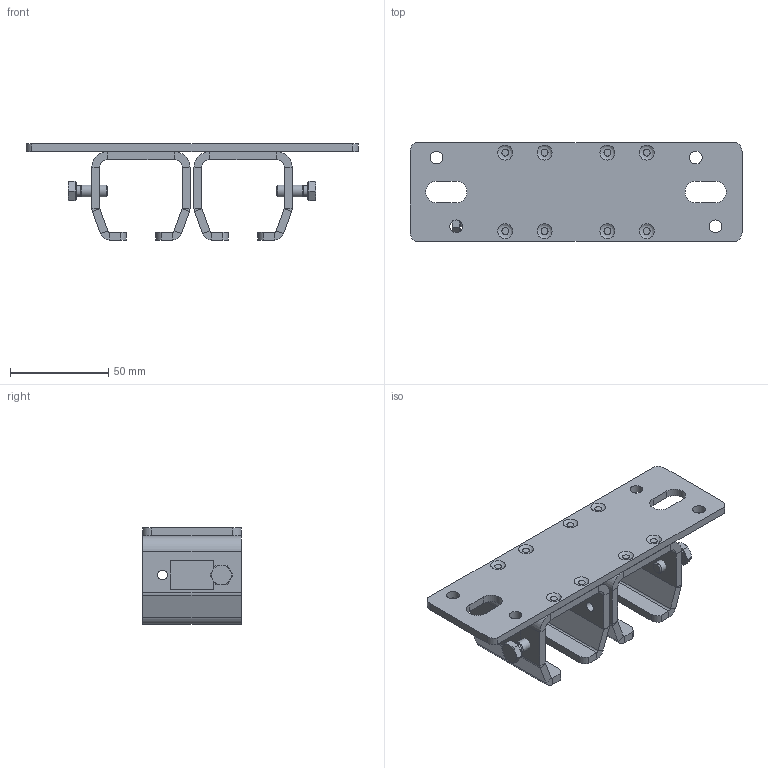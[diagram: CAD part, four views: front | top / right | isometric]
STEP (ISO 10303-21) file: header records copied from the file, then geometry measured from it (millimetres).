
FILE_DESCRIPTION(/* description */ ('Platte mit Löchern'),/* implementation_level */ '2;1');
FILE_NAME(/* name */ 'Q:\sge-ma\Produktmanagement-STB\STB\Workspace\stp\010333040.stp',/* time_stamp */ '2015-07-09T13:59:57+02:00',/* author */ ('avschreier'),/* organization */ (''),/* preprocessor_version */ 'ST-DEVELOPER v15.6',/* originating_system */ 'Autodesk Inventor 2015',/* authorisation */ '');
FILE_SCHEMA (('CONFIG_CONTROL_DESIGN'));
Length unit declared in the file: millimetre
Products named in the file (4): 337000247; 335140010; DIN_EN_ISO_4017-M6x16_en; 010333040
Bounding box: 169 x 50 x 49 mm (x, y, z)
Volume: 89894.4 mm3; surface area: 51741.4 mm2
Topology: 5 solids, 5 shells, 244 faces, 538 edges, 328 vertices
Faces by surface type: plane 150, cylinder 62, bspline 16, cone 16
Full cylindrical faces by diameter (mm): 4.917 x6, 5 x6, 5.459 x2, 6 x2, 6.5 x4, 8.7 x2
Entity records: 4522 total; most frequent: CARTESIAN_POINT 1148, DIRECTION 698, ORIENTED_EDGE 626, EDGE_CURVE 313, AXIS2_PLACEMENT_3D 271, EDGE_LOOP 208, VERTEX_POINT 205, LINE 156
